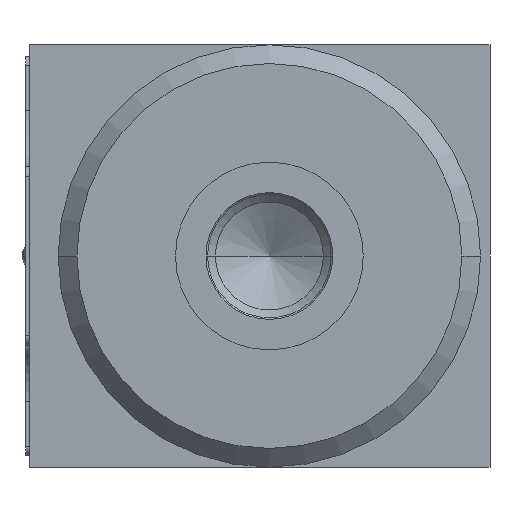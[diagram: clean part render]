
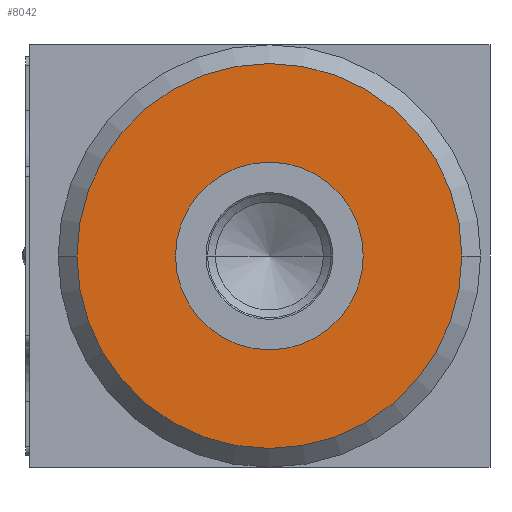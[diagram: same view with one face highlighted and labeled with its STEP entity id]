
A CAD part, left-side view. The second image highlights one B-rep face of the part: STEP entity #8042.
In plain terms, the highlighted planar face has unit normal (-1, 0, 0).
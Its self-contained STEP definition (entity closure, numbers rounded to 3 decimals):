
#3241=CARTESIAN_POINT('',(-81.,0.,0.));
#3242=DIRECTION('',(1.,0.,0.));
#3243=DIRECTION('',(0.,1.,0.));
#3244=AXIS2_PLACEMENT_3D('',#3241,#3242,#3243);
#3249=CARTESIAN_POINT('',(-81.,0.,0.));
#3250=DIRECTION('',(-1.,0.,0.));
#3251=DIRECTION('',(0.,1.,0.));
#3252=AXIS2_PLACEMENT_3D('',#3249,#3250,#3251);
#3257=CARTESIAN_POINT('',(-81.,0.,0.));
#3258=DIRECTION('',(1.,0.,0.));
#3259=DIRECTION('',(0.,-1.,0.));
#3260=AXIS2_PLACEMENT_3D('',#3257,#3258,#3259);
#3265=CARTESIAN_POINT('',(-81.,0.,0.));
#3266=DIRECTION('',(1.,0.,0.));
#3267=DIRECTION('',(0.,1.,0.));
#3268=AXIS2_PLACEMENT_3D('',#3265,#3266,#3267);
#4627=CARTESIAN_POINT('',(-81.,20.5,0.));
#4628=VERTEX_POINT('',#4627);
#4629=CARTESIAN_POINT('',(-81.,-20.5,0.));
#4630=VERTEX_POINT('',#4629);
#4653=CARTESIAN_POINT('',(-81.,-10.,0.));
#4654=VERTEX_POINT('',#4653);
#4655=CARTESIAN_POINT('',(-81.,10.,0.));
#4656=VERTEX_POINT('',#4655);
#8027=CARTESIAN_POINT('',(-81.,0.,0.));
#8028=DIRECTION('',(-1.,0.,0.));
#8029=DIRECTION('',(0.,-1.,0.));
#8030=AXIS2_PLACEMENT_3D('',#8027,#8028,#8029);
#8031=PLANE('',#8030);
#8032=ORIENTED_EDGE('',*,*,#7985,.T.);
#8033=ORIENTED_EDGE('',*,*,#8008,.F.);
#8034=EDGE_LOOP('',(#8032,#8033));
#8035=FACE_OUTER_BOUND('',#8034,.F.);
#8037=ORIENTED_EDGE('',*,*,#8036,.F.);
#8039=ORIENTED_EDGE('',*,*,#8038,.F.);
#8040=EDGE_LOOP('',(#8037,#8039));
#8041=FACE_BOUND('',#8040,.F.);
#3245=CIRCLE('',#3244,20.5);
#3253=CIRCLE('',#3252,20.5);
#3261=CIRCLE('',#3260,10.);
#3269=CIRCLE('',#3268,10.);
#7985=EDGE_CURVE('',#4628,#4630,#3245,.T.);
#8008=EDGE_CURVE('',#4628,#4630,#3253,.T.);
#8036=EDGE_CURVE('',#4654,#4656,#3261,.T.);
#8038=EDGE_CURVE('',#4656,#4654,#3269,.T.);
#8042=ADVANCED_FACE('',(#8035,#8041),#8031,.T.);
